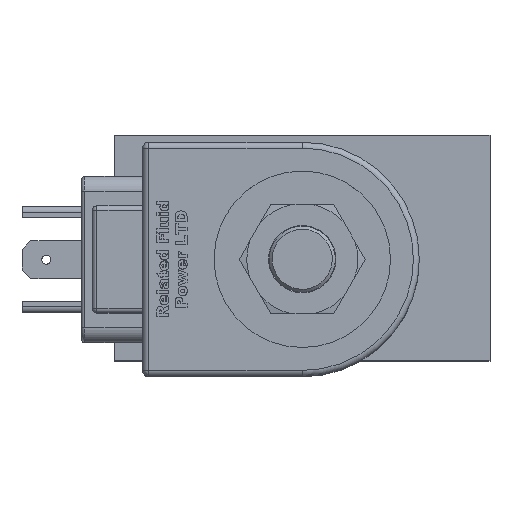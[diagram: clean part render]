
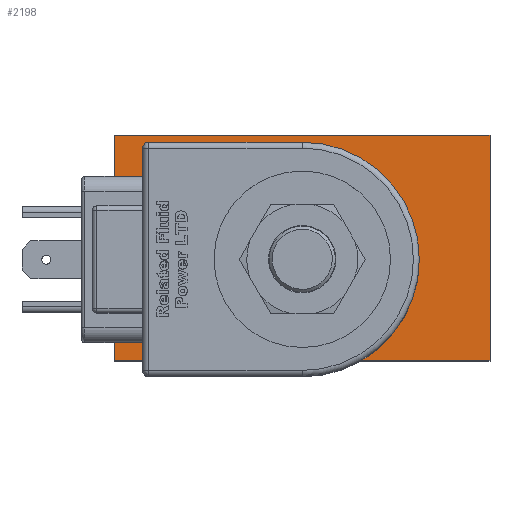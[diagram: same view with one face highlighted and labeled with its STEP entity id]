
A CAD part, top view. The second image highlights one B-rep face of the part: STEP entity #2198.
In plain terms, the highlighted planar face has unit normal (0, 0, 1).
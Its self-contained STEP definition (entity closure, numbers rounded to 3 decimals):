
#2198 = ADVANCED_FACE( '', ( #4662, #4663 ), #4664, .F. );
#4662 = FACE_BOUND( '', #7528, .T. );
#4663 = FACE_OUTER_BOUND( '', #7529, .T. );
#4664 = PLANE( '', #7530 );
#7528 = EDGE_LOOP( '', ( #13385 ) );
#7529 = EDGE_LOOP( '', ( #13386, #13387, #13388, #13389 ) );
#7530 = AXIS2_PLACEMENT_3D( '', #13390, #13391, #13392 );
#13385 = ORIENTED_EDGE( '', *, *, #18311, .T. );
#13386 = ORIENTED_EDGE( '', *, *, #17825, .T. );
#13387 = ORIENTED_EDGE( '', *, *, #18019, .F. );
#13388 = ORIENTED_EDGE( '', *, *, #18505, .F. );
#13389 = ORIENTED_EDGE( '', *, *, #18892, .T. );
#13390 = CARTESIAN_POINT( '', ( 0., 38.1, 0. ) );
#13391 = DIRECTION( '', ( 0., 0., -1. ) );
#13392 = DIRECTION( '', ( -1., 0., 0. ) );
#17825 = EDGE_CURVE( '', #21570, #21579, #21581, .T. );
#18019 = EDGE_CURVE( '', #21888, #21579, #21890, .T. );
#18311 = EDGE_CURVE( '', #22318, #22318, #22319, .T. );
#18505 = EDGE_CURVE( '', #22596, #21888, #22598, .T. );
#18892 = EDGE_CURVE( '', #22596, #21570, #23113, .T. );
#21570 = VERTEX_POINT( '', #27613 );
#21579 = VERTEX_POINT( '', #27628 );
#21581 = LINE( '', #27631, #27632 );
#21888 = VERTEX_POINT( '', #28100 );
#21890 = LINE( '', #28103, #28104 );
#22318 = VERTEX_POINT( '', #28801 );
#22319 = CIRCLE( '', #28802, 15.088 );
#22596 = VERTEX_POINT( '', #29244 );
#22598 = LINE( '', #29247, #29248 );
#23113 = LINE( '', #30277, #30278 );
#27613 = CARTESIAN_POINT( '', ( 0., 0., 0. ) );
#27628 = CARTESIAN_POINT( '', ( 63.5, 0., 0. ) );
#27631 = CARTESIAN_POINT( '', ( 0., 0., 0. ) );
#27632 = VECTOR( '', #32402, 1000. );
#28100 = CARTESIAN_POINT( '', ( 63.5, 38.1, 0. ) );
#28103 = CARTESIAN_POINT( '', ( 63.5, 38.1, 0. ) );
#28104 = VECTOR( '', #32531, 1000. );
#28801 = CARTESIAN_POINT( '', ( 31.75, 1.913, 0. ) );
#28802 = AXIS2_PLACEMENT_3D( '', #32791, #32792, #32793 );
#29244 = CARTESIAN_POINT( '', ( 0., 38.1, 0. ) );
#29247 = CARTESIAN_POINT( '', ( 0., 38.1, 0. ) );
#29248 = VECTOR( '', #32953, 1000. );
#30277 = CARTESIAN_POINT( '', ( 0., 38.1, 0. ) );
#30278 = VECTOR( '', #33204, 1000. );
#32402 = DIRECTION( '', ( 1., 0., 0. ) );
#32531 = DIRECTION( '', ( 0., -1., 0. ) );
#32791 = CARTESIAN_POINT( '', ( 31.75, 17., 0. ) );
#32792 = DIRECTION( '', ( 0., 0., -1. ) );
#32793 = DIRECTION( '', ( 0., -1., 0. ) );
#32953 = DIRECTION( '', ( 1., 0., 0. ) );
#33204 = DIRECTION( '', ( 0., -1., 0. ) );
